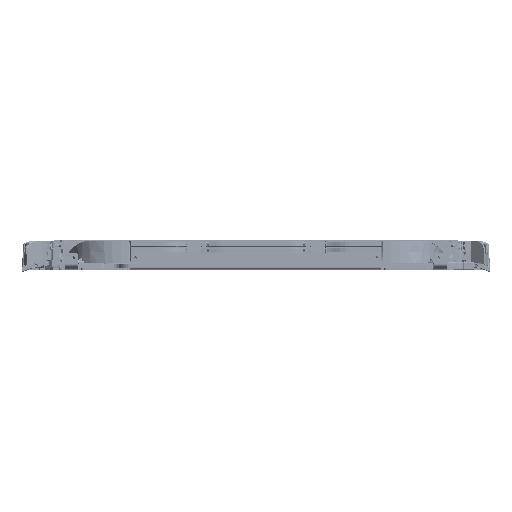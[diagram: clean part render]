
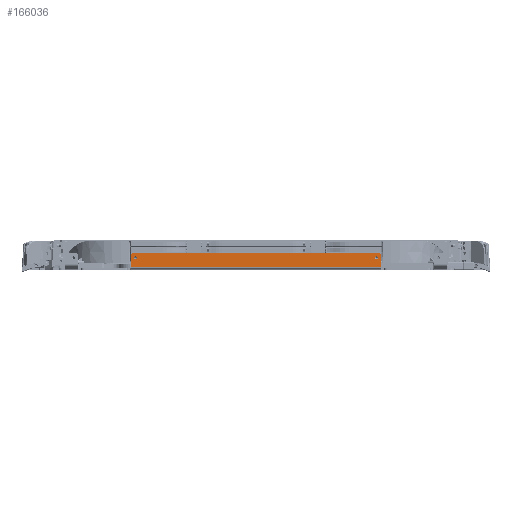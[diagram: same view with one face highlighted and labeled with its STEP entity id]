
A CAD part, left-side view. The second image highlights one B-rep face of the part: STEP entity #166036.
In plain terms, the highlighted planar face has unit normal (-1, 0, 0).
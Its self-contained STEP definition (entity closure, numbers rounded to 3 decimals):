
#53911=LINE('',#779455,#93772);
#53914=LINE('',#779465,#93775);
#54151=LINE('',#780291,#94012);
#54152=LINE('',#780294,#94013);
#93772=VECTOR('',#608247,1.);
#93775=VECTOR('',#608256,1.);
#94012=VECTOR('',#609115,1.);
#94013=VECTOR('',#609118,1.);
#141006=PLANE('',#534882);
#166036=ADVANCED_FACE('',(#192574,#192575,#192576),#141006,.T.);
#192574=FACE_BOUND('',#201170,.T.);
#192575=FACE_BOUND('',#201171,.T.);
#192576=FACE_BOUND('',#201172,.T.);
#201170=EDGE_LOOP('',(#258240));
#201171=EDGE_LOOP('',(#258241));
#201172=EDGE_LOOP('',(#258242,#258243,#258244,#258245,#258246,#258247));
#258240=ORIENTED_EDGE('',*,*,#445602,.T.);
#258241=ORIENTED_EDGE('',*,*,#445603,.T.);
#258242=ORIENTED_EDGE('',*,*,#445159,.T.);
#258243=ORIENTED_EDGE('',*,*,#445604,.T.);
#258244=ORIENTED_EDGE('',*,*,#445605,.T.);
#258245=ORIENTED_EDGE('',*,*,#445606,.T.);
#258246=ORIENTED_EDGE('',*,*,#445164,.T.);
#258247=ORIENTED_EDGE('',*,*,#445607,.T.);
#391232=VERTEX_POINT('',#779454);
#391233=VERTEX_POINT('',#779456);
#391236=VERTEX_POINT('',#779464);
#391237=VERTEX_POINT('',#779466);
#391512=VERTEX_POINT('',#780286);
#391513=VERTEX_POINT('',#780288);
#391514=VERTEX_POINT('',#780290);
#391515=VERTEX_POINT('',#780292);
#445159=EDGE_CURVE('',#391233,#391232,#53911,.T.);
#445164=EDGE_CURVE('',#391237,#391236,#53914,.T.);
#445602=EDGE_CURVE('',#391512,#391512,#510601,.T.);
#445603=EDGE_CURVE('',#391513,#391513,#510602,.T.);
#445604=EDGE_CURVE('',#391232,#391514,#510603,.T.);
#445605=EDGE_CURVE('',#391514,#391515,#54151,.T.);
#445606=EDGE_CURVE('',#391515,#391237,#510604,.T.);
#445607=EDGE_CURVE('',#391236,#391233,#54152,.T.);
#510601=CIRCLE('',#534878,1.7);
#510602=CIRCLE('',#534879,1.7);
#510603=CIRCLE('',#534880,3.);
#510604=CIRCLE('',#534881,3.);
#534878=AXIS2_PLACEMENT_3D('',#780285,#609109,#609110);
#534879=AXIS2_PLACEMENT_3D('',#780287,#609111,#609112);
#534880=AXIS2_PLACEMENT_3D('',#780289,#609113,#609114);
#534881=AXIS2_PLACEMENT_3D('',#780293,#609116,#609117);
#534882=AXIS2_PLACEMENT_3D('',#780295,#609119,#609120);
#608247=DIRECTION('',(0.,0.,1.));
#608256=DIRECTION('',(0.,0.,-1.));
#609109=DIRECTION('',(1.,0.,0.));
#609110=DIRECTION('',(0.,0.,1.));
#609111=DIRECTION('',(1.,0.,0.));
#609112=DIRECTION('',(0.,0.,1.));
#609113=DIRECTION('',(-1.,0.,0.));
#609114=DIRECTION('',(0.,0.,1.));
#609115=DIRECTION('',(0.,1.,0.));
#609116=DIRECTION('',(-1.,0.,0.));
#609117=DIRECTION('',(0.,0.,1.));
#609118=DIRECTION('',(0.,-1.,0.));
#609119=DIRECTION('',(-1.,0.,0.));
#609120=DIRECTION('',(0.,0.,1.));
#779454=CARTESIAN_POINT('',(-129.55,-135.,-1.));
#779455=CARTESIAN_POINT('',(-129.55,-135.,-14.267));
#779456=CARTESIAN_POINT('',(-129.55,-135.,-12.5));
#779464=CARTESIAN_POINT('',(-129.55,135.,-12.5));
#779465=CARTESIAN_POINT('',(-129.55,135.,2.));
#779466=CARTESIAN_POINT('',(-129.55,135.,-1.));
#780285=CARTESIAN_POINT('',(-129.55,-130.,-3.));
#780286=CARTESIAN_POINT('',(-129.55,-130.,-1.3));
#780287=CARTESIAN_POINT('',(-129.55,130.,-3.));
#780288=CARTESIAN_POINT('',(-129.55,130.,-1.3));
#780289=CARTESIAN_POINT('',(-129.55,-132.,-1.));
#780290=CARTESIAN_POINT('',(-129.55,-132.,2.));
#780291=CARTESIAN_POINT('',(-129.55,-135.,2.));
#780292=CARTESIAN_POINT('',(-129.55,132.,2.));
#780293=CARTESIAN_POINT('',(-129.55,132.,-1.));
#780294=CARTESIAN_POINT('',(-129.55,135.,-12.5));
#780295=CARTESIAN_POINT('',(-129.55,-290.,-15.5));
